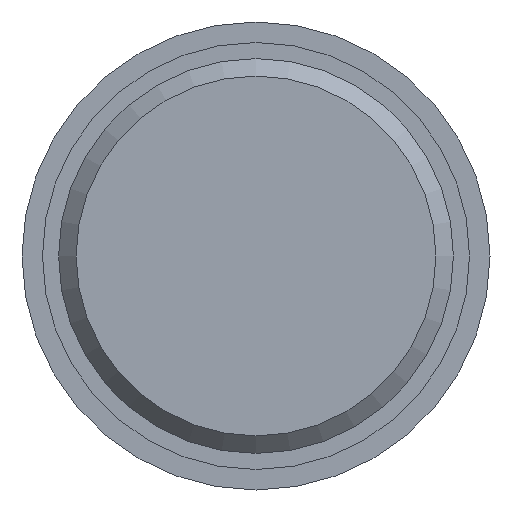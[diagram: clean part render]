
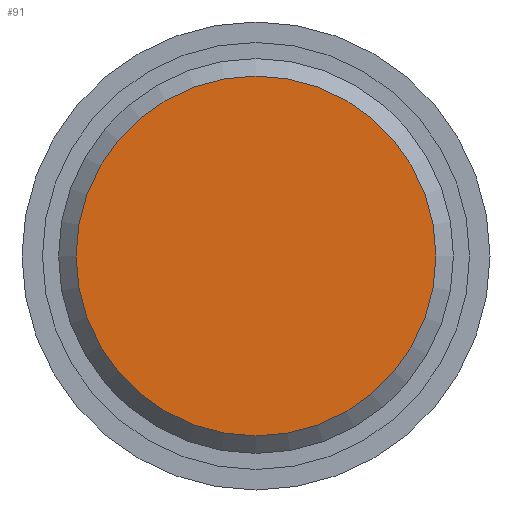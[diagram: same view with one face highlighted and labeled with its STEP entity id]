
A CAD part, front view. The second image highlights one B-rep face of the part: STEP entity #91.
In plain terms, the highlighted planar face has unit normal (0, -1, 0).
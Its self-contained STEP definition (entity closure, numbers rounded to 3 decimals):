
#91 = ADVANCED_FACE( '', ( #138 ), #139, .F. );
#138 = FACE_OUTER_BOUND( '', #193, .T. );
#139 = PLANE( '', #194 );
#193 = EDGE_LOOP( '', ( #308 ) );
#194 = AXIS2_PLACEMENT_3D( '', #309, #310, #311 );
#308 = ORIENTED_EDGE( '', *, *, #359, .T. );
#309 = CARTESIAN_POINT( '', ( 12.3, 0., 0. ) );
#310 = DIRECTION( '', ( 0., 1., 0. ) );
#311 = DIRECTION( '', ( 0., 0., 1. ) );
#359 = EDGE_CURVE( '', #411, #411, #412, .T. );
#411 = VERTEX_POINT( '', #485 );
#412 = CIRCLE( '', #486, 12.3 );
#485 = CARTESIAN_POINT( '', ( 0., 0., -12.3 ) );
#486 = AXIS2_PLACEMENT_3D( '', #538, #539, #540 );
#538 = CARTESIAN_POINT( '', ( 0., 0., 0. ) );
#539 = DIRECTION( '', ( 0., -1., 0. ) );
#540 = DIRECTION( '', ( 0., 0., -1. ) );
